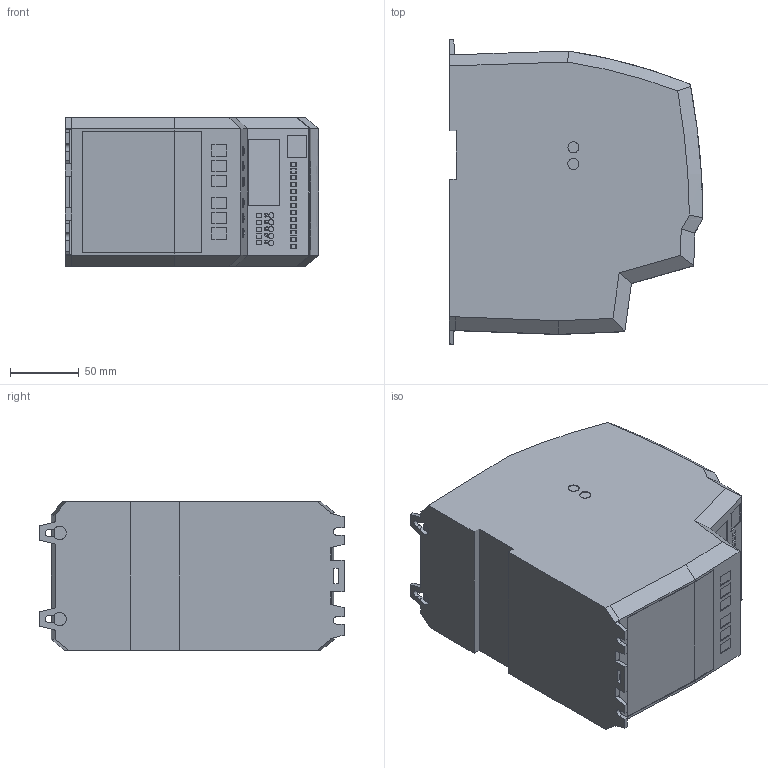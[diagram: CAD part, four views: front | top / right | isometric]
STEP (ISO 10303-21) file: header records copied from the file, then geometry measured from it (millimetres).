
FILE_DESCRIPTION (( 'STEP AP214' ), '1' );
FILE_NAME ('P2ECO S2 IP20.STEP', '2017-08-15T11:05:31', ( '' ), ( '' ), 'SwSTEP 2.0', 'SolidWorks 2017', '' );
FILE_SCHEMA (( 'AUTOMOTIVE_DESIGN' ));
Length unit declared in the file: millimetre
Products named in the file (1): P2ECO S2 IP20
Bounding box: 184.5 x 221.01 x 108 mm (x, y, z)
Volume: 3513982.5 mm3; surface area: 147765.2 mm2
Topology: 1 solids, 1 shells, 1104 faces, 2823 edges, 1876 vertices
Faces by surface type: plane 722, bspline 212, cylinder 166, cone 4
Entity records: 49492 total; most frequent: CARTESIAN_POINT 24578, ORIENTED_EDGE 5644, DIRECTION 4075, EDGE_CURVE 2822, VECTOR 1935, LINE 1935, VERTEX_POINT 1876, EDGE_LOOP 1266
